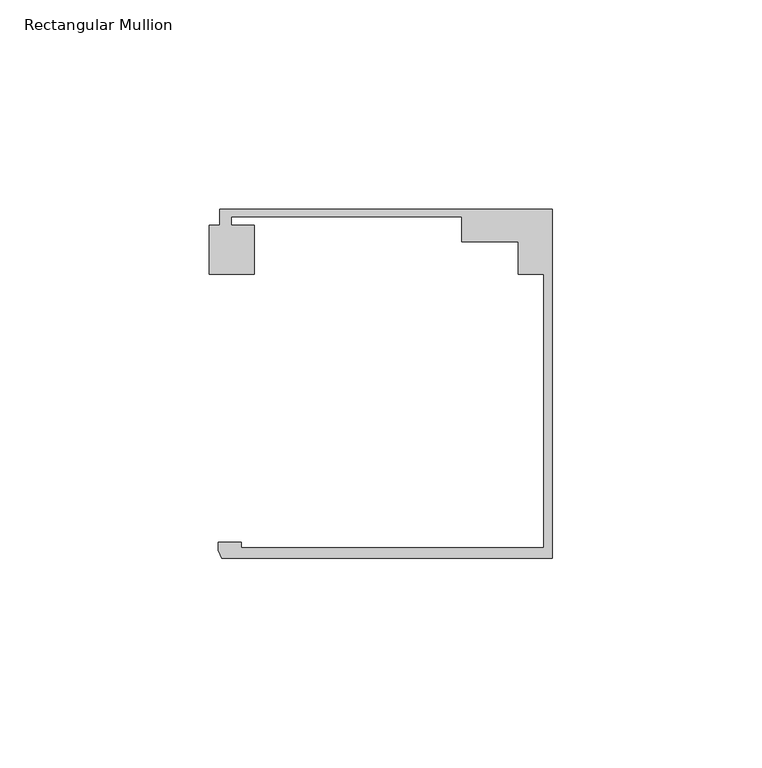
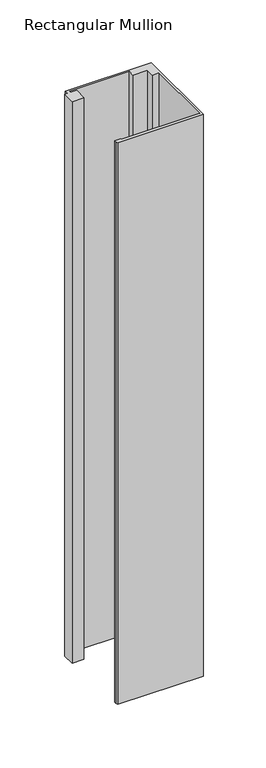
"""IFC4 building model written with IfcOpenShell, lengths in millimetres: member geometry, Rectangular Mullion : Danpal_Airpt_End-Mullion_B1."""

from ifc_helpers import new_model, si_unit, frame, origin, place, context, project, spatial, polyline, outline, extrude, source, transform, mapped, element, save


def rectangular_mullion_8443ba7e(model_context):
    return source(origin(), model_context, "Body", "SweptSolid", [
        extrude(outline(polyline([(-74.2474668, -74.9940824), (-2.0000001, -74.9940824), (-2.0000001, -9.7188964), (-8.1, -9.7188964), (-8.1, -1.8818054), (-21.5478166, -1.8818054), (-21.5478166, 4.0051512), (-76.6478166, 4.0051512), (-76.6478166, 2.0051513), (-71.1433532, 2.0051513), (-71.1433532, -9.6875514), (-81.8592324, -9.6875514), (-81.8592324, 2.0051513), (-79.3474874, 2.0051513), (-79.3474874, 5.8051514), (0.0, 5.8051514), (0.0, -77.4940825), (-78.8515009, -77.4940825), (-79.7784606, -75.5472671), (-79.7784606, -73.6940824), (-74.2474668, -73.6940824), (-74.2474668, -74.9940824)])), frame((0.0, 0.0, -548.1991816), z_axis=(0.0, 0.0, 1.0), x_axis=(1.0, 0.0, 0.0)), (0.0, 0.0, 1.0), 548.1991816),
    ])


if __name__ == "__main__":
    model = new_model("IFC4")
    model_context = context("Model", 3, world=origin())
    ifc_project = project(units=[si_unit("LENGTHUNIT", "METRE", prefix="MILLI")], contexts=[model_context])
    site = spatial("IfcSite", under=ifc_project)
    building = spatial("IfcBuilding", under=site)
    placement = place(None, origin())
    rectangular_mullion_shape = rectangular_mullion_8443ba7e(model_context)
    element("IfcMember", 1, ObjectType="Rectangular Mullion : Danpal_Airpt_End-Mullion_B1", at=placement, inside=building, context=model_context, shape_type="MappedRepresentation", body=[
        mapped(rectangular_mullion_shape, transform((0.0, 0.0, 0.0), x_axis=(1.0, 0.0, 0.0), y_axis=(0.0, 1.0, 0.0), z_axis=(0.0, 0.0, 1.0))),
    ])
    save(model, "model.ifc")
